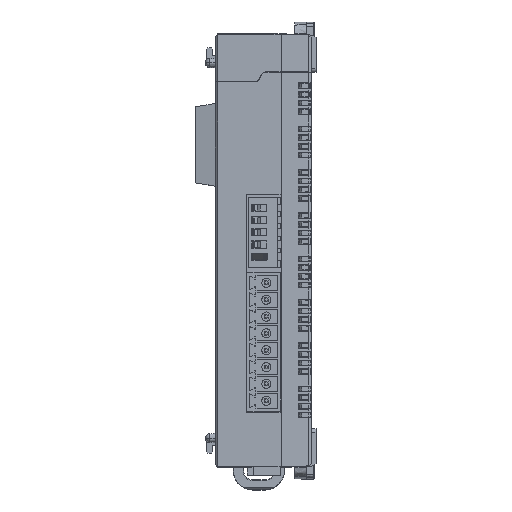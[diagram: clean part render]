
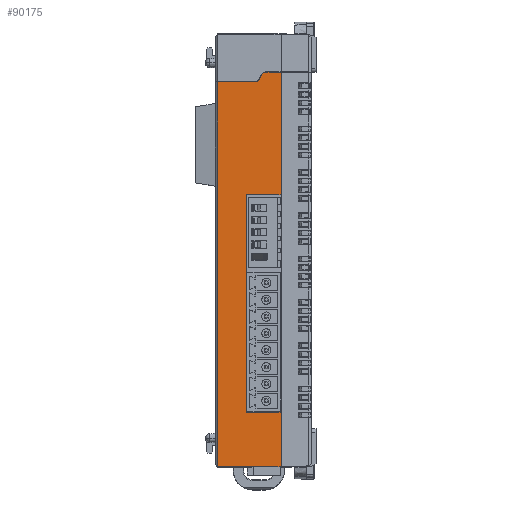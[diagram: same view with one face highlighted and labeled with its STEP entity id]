
A CAD part, top view. The second image highlights one B-rep face of the part: STEP entity #90175.
In plain terms, the highlighted planar face has unit normal (0, 0, 1).
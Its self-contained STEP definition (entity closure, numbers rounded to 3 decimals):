
#1397 = CARTESIAN_POINT ( 'NONE',  ( 0., 11.6, 30. ) ) ;
#3066 = ORIENTED_EDGE ( 'NONE', *, *, #120012, .F. ) ;
#4088 = ORIENTED_EDGE ( 'NONE', *, *, #27038, .F. ) ;
#4161 = LINE ( 'NONE', #37201, #75344 ) ;
#4522 = CARTESIAN_POINT ( 'NONE',  ( 0., 45., 30. ) ) ;
#8896 = ORIENTED_EDGE ( 'NONE', *, *, #86823, .T. ) ;
#9387 = EDGE_CURVE ( 'NONE', #57946, #90636, #76880, .T. ) ;
#10497 = LINE ( 'NONE', #110359, #83282 ) ;
#12410 = LINE ( 'NONE', #80150, #51009 ) ;
#12790 = CARTESIAN_POINT ( 'NONE',  ( -13.2, -45., 30. ) ) ;
#13211 = ORIENTED_EDGE ( 'NONE', *, *, #9387, .F. ) ;
#14590 = DIRECTION ( 'NONE',  ( 0., 0., -1. ) ) ;
#14872 = EDGE_CURVE ( 'NONE', #71633, #68480, #96181, .T. ) ;
#15133 = VECTOR ( 'NONE', #18985, 1000. ) ;
#15945 = DIRECTION ( 'NONE',  ( 0., -1., 0. ) ) ;
#16000 = VECTOR ( 'NONE', #117672, 1000. ) ;
#16559 = AXIS2_PLACEMENT_3D ( 'NONE', #17682, #27199, #93595 ) ;
#17682 = CARTESIAN_POINT ( 'NONE',  ( -3.123, 36., 30. ) ) ;
#18317 = CIRCLE ( 'NONE', #16559, 1. ) ;
#18985 = DIRECTION ( 'NONE',  ( 1., 0., 0. ) ) ;
#19738 = VERTEX_POINT ( 'NONE', #12790 ) ;
#20912 = CARTESIAN_POINT ( 'NONE',  ( -7.2, 11.6, 30. ) ) ;
#23239 = VERTEX_POINT ( 'NONE', #41256 ) ;
#23820 = AXIS2_PLACEMENT_3D ( 'NONE', #121996, #14590, #113685 ) ;
#24049 = ORIENTED_EDGE ( 'NONE', *, *, #24051, .F. ) ;
#24051 = EDGE_CURVE ( 'NONE', #34853, #57946, #111505, .T. ) ;
#24667 = DIRECTION ( 'NONE',  ( 0., 0., 1. ) ) ;
#25477 = PLANE ( 'NONE',  #30731 ) ;
#26437 = CARTESIAN_POINT ( 'NONE',  ( 0., 37., 30. ) ) ;
#27038 = EDGE_CURVE ( 'NONE', #90636, #82381, #64828, .T. ) ;
#27199 = DIRECTION ( 'NONE',  ( 0., 0., 1. ) ) ;
#28138 = ORIENTED_EDGE ( 'NONE', *, *, #14872, .F. ) ;
#28583 = VERTEX_POINT ( 'NONE', #33661 ) ;
#29386 = CIRCLE ( 'NONE', #23820, 1. ) ;
#30731 = AXIS2_PLACEMENT_3D ( 'NONE', #118767, #24667, #15945 ) ;
#31110 = EDGE_CURVE ( 'NONE', #19738, #28583, #10497, .T. ) ;
#32785 = DIRECTION ( 'NONE',  ( 0., -1., 0. ) ) ;
#32809 = VERTEX_POINT ( 'NONE', #98954 ) ;
#33661 = CARTESIAN_POINT ( 'NONE',  ( 0., -45., 30. ) ) ;
#34546 = ORIENTED_EDGE ( 'NONE', *, *, #48502, .F. ) ;
#34853 = VERTEX_POINT ( 'NONE', #34925 ) ;
#34925 = CARTESIAN_POINT ( 'NONE',  ( -3.123, 37., 30. ) ) ;
#36575 = EDGE_CURVE ( 'NONE', #122713, #19738, #12410, .T. ) ;
#37201 = CARTESIAN_POINT ( 'NONE',  ( 0., 45., 30. ) ) ;
#37592 = ORIENTED_EDGE ( 'NONE', *, *, #79673, .F. ) ;
#38747 = DIRECTION ( 'NONE',  ( -1., 0., 0. ) ) ;
#38834 = ORIENTED_EDGE ( 'NONE', *, *, #66873, .T. ) ;
#39462 = VECTOR ( 'NONE', #38747, 1000. ) ;
#40806 = CARTESIAN_POINT ( 'NONE',  ( -7.2, 11.6, 30. ) ) ;
#41256 = CARTESIAN_POINT ( 'NONE',  ( -7.2, -33.6, 30. ) ) ;
#42772 = DIRECTION ( 'NONE',  ( 0., -1., 0. ) ) ;
#43199 = VECTOR ( 'NONE', #45958, 1000. ) ;
#43368 = LINE ( 'NONE', #85812, #15133 ) ;
#43788 = CARTESIAN_POINT ( 'NONE',  ( 0., 37., 30. ) ) ;
#45332 = ORIENTED_EDGE ( 'NONE', *, *, #36575, .T. ) ;
#45735 = EDGE_LOOP ( 'NONE', ( #4088, #13211, #24049, #8896, #28138, #38834, #34546, #45332, #52406, #70314, #37592, #3066 ) ) ;
#45958 = DIRECTION ( 'NONE',  ( 1., 0., 0. ) ) ;
#47942 = CARTESIAN_POINT ( 'NONE',  ( -3.7, 37., 30. ) ) ;
#48502 = EDGE_CURVE ( 'NONE', #122713, #111687, #43368, .T. ) ;
#51009 = VECTOR ( 'NONE', #42772, 1000. ) ;
#52406 = ORIENTED_EDGE ( 'NONE', *, *, #31110, .T. ) ;
#57946 = VERTEX_POINT ( 'NONE', #43788 ) ;
#58652 = LINE ( 'NONE', #109482, #106116 ) ;
#62267 = DIRECTION ( 'NONE',  ( 1., 0., 0. ) ) ;
#64828 = LINE ( 'NONE', #20912, #39462 ) ;
#66325 = DIRECTION ( 'NONE',  ( 0., -1., 0. ) ) ;
#66873 = EDGE_CURVE ( 'NONE', #71633, #111687, #29386, .T. ) ;
#68480 = VERTEX_POINT ( 'NONE', #69353 ) ;
#69353 = CARTESIAN_POINT ( 'NONE',  ( -3.989, 36.5, 30. ) ) ;
#70314 = ORIENTED_EDGE ( 'NONE', *, *, #106692, .F. ) ;
#71119 = FACE_OUTER_BOUND ( 'NONE', #45735, .T. ) ;
#71633 = VERTEX_POINT ( 'NONE', #100727 ) ;
#75344 = VECTOR ( 'NONE', #66325, 1000. ) ;
#76880 = LINE ( 'NONE', #4522, #16000 ) ;
#79673 = EDGE_CURVE ( 'NONE', #23239, #32809, #58652, .T. ) ;
#80150 = CARTESIAN_POINT ( 'NONE',  ( -13.2, -45., 30. ) ) ;
#82381 = VERTEX_POINT ( 'NONE', #40806 ) ;
#83282 = VECTOR ( 'NONE', #62267, 1000. ) ;
#85812 = CARTESIAN_POINT ( 'NONE',  ( -4.855, 35., 30. ) ) ;
#85984 = CARTESIAN_POINT ( 'NONE',  ( -5.432, 35., 30. ) ) ;
#86823 = EDGE_CURVE ( 'NONE', #34853, #68480, #18317, .T. ) ;
#88027 = CARTESIAN_POINT ( 'NONE',  ( -13.2, 35., 30. ) ) ;
#90175 = ADVANCED_FACE ( 'NONE', ( #71119 ), #25477, .T. ) ;
#90636 = VERTEX_POINT ( 'NONE', #1397 ) ;
#93595 = DIRECTION ( 'NONE',  ( 0., -1., 0. ) ) ;
#96181 = LINE ( 'NONE', #47942, #112509 ) ;
#98954 = CARTESIAN_POINT ( 'NONE',  ( 0., -33.6, 30. ) ) ;
#99130 = CARTESIAN_POINT ( 'NONE',  ( -7.2, 11.6, 30. ) ) ;
#100727 = CARTESIAN_POINT ( 'NONE',  ( -4.566, 35.5, 30. ) ) ;
#103920 = DIRECTION ( 'NONE',  ( 0.5, 0.866, 0. ) ) ;
#106064 = LINE ( 'NONE', #99130, #117945 ) ;
#106116 = VECTOR ( 'NONE', #110317, 1000. ) ;
#106692 = EDGE_CURVE ( 'NONE', #32809, #28583, #4161, .T. ) ;
#109482 = CARTESIAN_POINT ( 'NONE',  ( -7.2, -33.6, 30. ) ) ;
#110317 = DIRECTION ( 'NONE',  ( 1., 0., 0. ) ) ;
#110359 = CARTESIAN_POINT ( 'NONE',  ( -13.7, -45., 30. ) ) ;
#111505 = LINE ( 'NONE', #26437, #43199 ) ;
#111687 = VERTEX_POINT ( 'NONE', #85984 ) ;
#112509 = VECTOR ( 'NONE', #103920, 1000. ) ;
#113685 = DIRECTION ( 'NONE',  ( 0., -1., 0. ) ) ;
#117672 = DIRECTION ( 'NONE',  ( 0., -1., 0. ) ) ;
#117945 = VECTOR ( 'NONE', #32785, 1000. ) ;
#118767 = CARTESIAN_POINT ( 'NONE',  ( -13.7, 45., 30. ) ) ;
#120012 = EDGE_CURVE ( 'NONE', #82381, #23239, #106064, .T. ) ;
#121996 = CARTESIAN_POINT ( 'NONE',  ( -5.432, 36., 30. ) ) ;
#122713 = VERTEX_POINT ( 'NONE', #88027 ) ;
